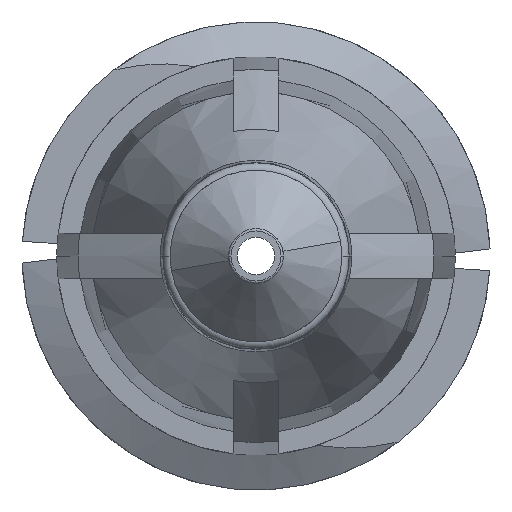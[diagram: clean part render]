
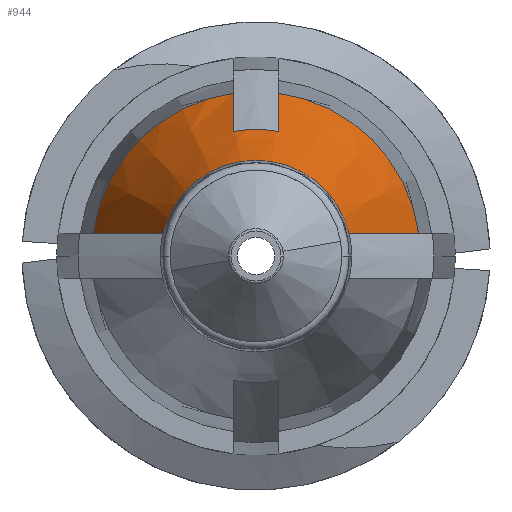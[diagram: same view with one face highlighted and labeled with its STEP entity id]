
A CAD part, front view. The second image highlights one B-rep face of the part: STEP entity #944.
In plain terms, the highlighted conical face has half-angle 20 degrees and reference radius 2.745 mm.
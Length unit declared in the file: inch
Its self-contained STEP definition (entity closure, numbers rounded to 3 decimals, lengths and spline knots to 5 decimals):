
#53 = EDGE_CURVE ( 'NONE', #703, #1984, #3139, .T. ) ;
#83 = CARTESIAN_POINT ( 'NONE',  ( 0.07664, -0.48863, 0.015 ) ) ;
#95 = CARTESIAN_POINT ( 'NONE',  ( -0.06119, -0.52985, 0.015 ) ) ;
#173 = CARTESIAN_POINT ( 'NONE',  ( -0.10703, -0.406, 0.015 ) ) ;
#176 = ORIENTED_EDGE ( 'NONE', *, *, #2062, .F. ) ;
#179 = CARTESIAN_POINT ( 'NONE',  ( 0.015, -0.47395, 0.08198 ) ) ;
#201 = CARTESIAN_POINT ( 'NONE',  ( 0., -0.47395, 0. ) ) ;
#391 = ORIENTED_EDGE ( 'NONE', *, *, #3293, .F. ) ;
#578 = ORIENTED_EDGE ( 'NONE', *, *, #942, .F. ) ;
#586 = B_SPLINE_CURVE_WITH_KNOTS ( 'NONE', 3,
 ( #1736, #2792, #985, #953 ),
 .UNSPECIFIED., .F., .F.,
 ( 4, 4 ),
 ( 0.00282, 0.00617 ),
 .UNSPECIFIED. ) ;
#623 = VERTEX_POINT ( 'NONE', #1940 ) ;
#645 = CIRCLE ( 'NONE', #3316, 0.063 ) ;
#703 = VERTEX_POINT ( 'NONE', #173 ) ;
#716 = ORIENTED_EDGE ( 'NONE', *, *, #2022, .T. ) ;
#777 = AXIS2_PLACEMENT_3D ( 'NONE', #201, #3033, #1734 ) ;
#789 = CARTESIAN_POINT ( 'NONE',  ( 0.015, -0.45131, 0.09036 ) ) ;
#942 = EDGE_CURVE ( 'NONE', #2796, #3019, #2737, .T. ) ;
#944 = ADVANCED_FACE ( 'NONE', ( #3373 ), #2327, .T. ) ;
#953 = CARTESIAN_POINT ( 'NONE',  ( -0.10703, -0.406, 0.015 ) ) ;
#985 = CARTESIAN_POINT ( 'NONE',  ( -0.09185, -0.44732, 0.015 ) ) ;
#997 = AXIS2_PLACEMENT_3D ( 'NONE', #1846, #2907, #1833 ) ;
#1021 = CARTESIAN_POINT ( 'NONE',  ( 0., -0.406, 0. ) ) ;
#1033 = CARTESIAN_POINT ( 'NONE',  ( 0.015, -0.47395, 0.08198 ) ) ;
#1119 = EDGE_CURVE ( 'NONE', #1780, #623, #1211, .T. ) ;
#1144 = CARTESIAN_POINT ( 'NONE',  ( 0.09185, -0.44732, 0.015 ) ) ;
#1211 = B_SPLINE_CURVE_WITH_KNOTS ( 'NONE', 3,
 ( #2430, #83, #1144, #2950 ),
 .UNSPECIFIED., .F., .F.,
 ( 4, 4 ),
 ( 0.00282, 0.00617 ),
 .UNSPECIFIED. ) ;
#1233 = DIRECTION ( 'NONE',  ( 0., 1., 0. ) ) ;
#1243 = CARTESIAN_POINT ( 'NONE',  ( 0., -0.52985, 0. ) ) ;
#1266 = DIRECTION ( 'NONE',  ( -1., 0., 0. ) ) ;
#1288 = ORIENTED_EDGE ( 'NONE', *, *, #53, .F. ) ;
#1302 = ORIENTED_EDGE ( 'NONE', *, *, #2791, .F. ) ;
#1336 = CARTESIAN_POINT ( 'NONE',  ( 0.06119, -0.52985, 0.015 ) ) ;
#1341 = B_SPLINE_CURVE_WITH_KNOTS ( 'NONE', 3,
 ( #3229, #1674, #2974, #2139 ),
 .UNSPECIFIED., .F., .F.,
 ( 4, 4 ),
 ( 0.00343, 0.00527 ),
 .UNSPECIFIED. ) ;
#1579 = AXIS2_PLACEMENT_3D ( 'NONE', #2555, #1233, #3023 ) ;
#1604 = VERTEX_POINT ( 'NONE', #95 ) ;
#1621 = VERTEX_POINT ( 'NONE', #3285 ) ;
#1638 = ORIENTED_EDGE ( 'NONE', *, *, #1119, .T. ) ;
#1674 = CARTESIAN_POINT ( 'NONE',  ( -0.015, -0.42866, 0.0987 ) ) ;
#1734 = DIRECTION ( 'NONE',  ( 1., 0., 0. ) ) ;
#1736 = CARTESIAN_POINT ( 'NONE',  ( -0.06119, -0.52985, 0.015 ) ) ;
#1780 = VERTEX_POINT ( 'NONE', #1336 ) ;
#1821 = AXIS2_PLACEMENT_3D ( 'NONE', #1021, #2881, #1266 ) ;
#1833 = DIRECTION ( 'NONE',  ( -1., 0., 0. ) ) ;
#1846 = CARTESIAN_POINT ( 'NONE',  ( 0., -0.406, 0. ) ) ;
#1940 = CARTESIAN_POINT ( 'NONE',  ( 0.10703, -0.406, 0.015 ) ) ;
#1943 = ORIENTED_EDGE ( 'NONE', *, *, #2261, .F. ) ;
#1984 = VERTEX_POINT ( 'NONE', #2762 ) ;
#2022 = EDGE_CURVE ( 'NONE', #1604, #1780, #645, .T. ) ;
#2062 = EDGE_CURVE ( 'NONE', #1604, #703, #586, .T. ) ;
#2104 = CIRCLE ( 'NONE', #777, 0.08335 ) ;
#2139 = CARTESIAN_POINT ( 'NONE',  ( -0.015, -0.47395, 0.08198 ) ) ;
#2178 = EDGE_LOOP ( 'NONE', ( #176, #716, #1638, #1302, #578, #391, #1943, #1288 ) ) ;
#2261 = EDGE_CURVE ( 'NONE', #1984, #1621, #1341, .T. ) ;
#2302 = DIRECTION ( 'NONE',  ( -1., 0., 0. ) ) ;
#2327 = CONICAL_SURFACE ( 'NONE', #997, 0.10808, 0.349 ) ;
#2336 = CARTESIAN_POINT ( 'NONE',  ( 0.015, -0.406, 0.10703 ) ) ;
#2369 = CARTESIAN_POINT ( 'NONE',  ( 0.015, -0.42866, 0.0987 ) ) ;
#2430 = CARTESIAN_POINT ( 'NONE',  ( 0.06119, -0.52985, 0.015 ) ) ;
#2531 = DIRECTION ( 'NONE',  ( 0., 1., 0. ) ) ;
#2555 = CARTESIAN_POINT ( 'NONE',  ( 0., -0.406, 0. ) ) ;
#2737 = B_SPLINE_CURVE_WITH_KNOTS ( 'NONE', 3,
 ( #1033, #789, #2369, #2336 ),
 .UNSPECIFIED., .F., .F.,
 ( 4, 4 ),
 ( 0.00247, 0.00431 ),
 .UNSPECIFIED. ) ;
#2762 = CARTESIAN_POINT ( 'NONE',  ( -0.015, -0.406, 0.10703 ) ) ;
#2791 = EDGE_CURVE ( 'NONE', #3019, #623, #2878, .T. ) ;
#2792 = CARTESIAN_POINT ( 'NONE',  ( -0.07664, -0.48863, 0.015 ) ) ;
#2796 = VERTEX_POINT ( 'NONE', #179 ) ;
#2878 = CIRCLE ( 'NONE', #1821, 0.10808 ) ;
#2881 = DIRECTION ( 'NONE',  ( 0., 1., 0. ) ) ;
#2907 = DIRECTION ( 'NONE',  ( 0., 1., 0. ) ) ;
#2950 = CARTESIAN_POINT ( 'NONE',  ( 0.10703, -0.406, 0.015 ) ) ;
#2974 = CARTESIAN_POINT ( 'NONE',  ( -0.015, -0.45131, 0.09036 ) ) ;
#3019 = VERTEX_POINT ( 'NONE', #3422 ) ;
#3023 = DIRECTION ( 'NONE',  ( -1., 0., 0. ) ) ;
#3033 = DIRECTION ( 'NONE',  ( 0., 1., 0. ) ) ;
#3139 = CIRCLE ( 'NONE', #1579, 0.10808 ) ;
#3229 = CARTESIAN_POINT ( 'NONE',  ( -0.015, -0.406, 0.10703 ) ) ;
#3285 = CARTESIAN_POINT ( 'NONE',  ( -0.015, -0.47395, 0.08198 ) ) ;
#3293 = EDGE_CURVE ( 'NONE', #1621, #2796, #2104, .T. ) ;
#3316 = AXIS2_PLACEMENT_3D ( 'NONE', #1243, #2531, #2302 ) ;
#3373 = FACE_OUTER_BOUND ( 'NONE', #2178, .T. ) ;
#3422 = CARTESIAN_POINT ( 'NONE',  ( 0.015, -0.406, 0.10703 ) ) ;
